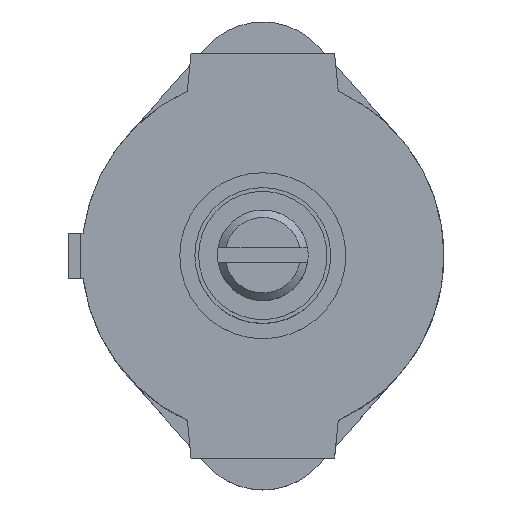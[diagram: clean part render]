
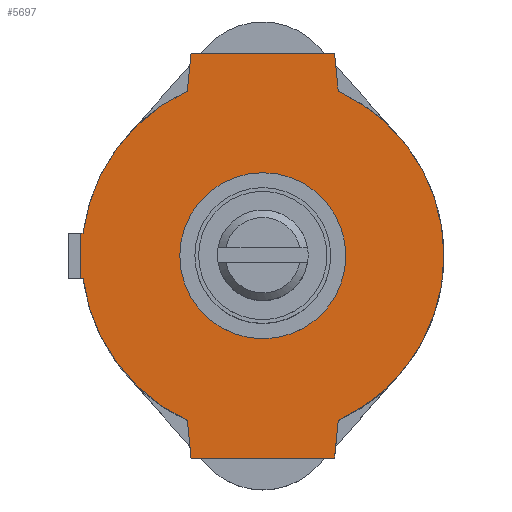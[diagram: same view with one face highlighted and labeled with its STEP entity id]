
A CAD part, top view. The second image highlights one B-rep face of the part: STEP entity #5697.
In plain terms, the highlighted planar face has unit normal (0, 0, 1).
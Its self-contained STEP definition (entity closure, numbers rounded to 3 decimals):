
#72 = AXIS2_PLACEMENT_3D ( 'NONE', #6476, #3207, #7018 ) ;
#80 = ORIENTED_EDGE ( 'NONE', *, *, #4314, .F. ) ;
#95 = VERTEX_POINT ( 'NONE', #6441 ) ;
#163 = CIRCLE ( 'NONE', #4927, 12. ) ;
#324 = EDGE_CURVE ( 'NONE', #5906, #5291, #6870, .T. ) ;
#371 = LINE ( 'NONE', #6608, #5847 ) ;
#392 = CIRCLE ( 'NONE', #6304, 12. ) ;
#504 = EDGE_CURVE ( 'NONE', #4884, #2007, #371, .T. ) ;
#529 = VERTEX_POINT ( 'NONE', #3905 ) ;
#573 = CARTESIAN_POINT ( 'NONE',  ( -12.1, 0., 14.5 ) ) ;
#690 = EDGE_CURVE ( 'NONE', #3564, #2007, #6679, .T. ) ;
#773 = VECTOR ( 'NONE', #4488, 1000. ) ;
#838 = CARTESIAN_POINT ( 'NONE',  ( 4.75, 13.4, 14.5 ) ) ;
#974 = LINE ( 'NONE', #4684, #2242 ) ;
#992 = VECTOR ( 'NONE', #3847, 1000. ) ;
#999 = EDGE_CURVE ( 'NONE', #529, #5108, #6682, .T. ) ;
#1008 = VECTOR ( 'NONE', #5718, 1000. ) ;
#1038 = VECTOR ( 'NONE', #3836, 1000. ) ;
#1258 = ORIENTED_EDGE ( 'NONE', *, *, #999, .T. ) ;
#1366 = ORIENTED_EDGE ( 'NONE', *, *, #690, .F. ) ;
#1448 = CIRCLE ( 'NONE', #4704, 5.5 ) ;
#1547 = ORIENTED_EDGE ( 'NONE', *, *, #324, .F. ) ;
#1572 = EDGE_CURVE ( 'NONE', #529, #5539, #5907, .T. ) ;
#1725 = CARTESIAN_POINT ( 'NONE',  ( 0., 0., 14.5 ) ) ;
#1785 = VERTEX_POINT ( 'NONE', #4323 ) ;
#1846 = FACE_BOUND ( 'NONE', #4128, .T. ) ;
#1949 = CARTESIAN_POINT ( 'NONE',  ( 5., -10.909, 14.5 ) ) ;
#1956 = CARTESIAN_POINT ( 'NONE',  ( 4.75, -13.4, 14.5 ) ) ;
#1993 = CARTESIAN_POINT ( 'NONE',  ( -4.75, -13.4, 14.5 ) ) ;
#2007 = VERTEX_POINT ( 'NONE', #3511 ) ;
#2072 = CARTESIAN_POINT ( 'NONE',  ( 0., 0., 14.5 ) ) ;
#2143 = VERTEX_POINT ( 'NONE', #1956 ) ;
#2219 = CARTESIAN_POINT ( 'NONE',  ( -11.906, -1.5, 14.5 ) ) ;
#2233 = DIRECTION ( 'NONE',  ( 0., 0., 1. ) ) ;
#2242 = VECTOR ( 'NONE', #6859, 1000. ) ;
#2295 = DIRECTION ( 'NONE',  ( -1., 0., 0. ) ) ;
#2302 = CARTESIAN_POINT ( 'NONE',  ( 4.75, 13.4, 14.5 ) ) ;
#2338 = DIRECTION ( 'NONE',  ( 0., 0., -1. ) ) ;
#2388 = CIRCLE ( 'NONE', #2609, 5.5 ) ;
#2461 = EDGE_CURVE ( 'NONE', #3564, #6498, #6974, .T. ) ;
#2470 = LINE ( 'NONE', #5178, #1008 ) ;
#2557 = DIRECTION ( 'NONE',  ( 1., 0., 0. ) ) ;
#2594 = DIRECTION ( 'NONE',  ( -0.1, -0.995, 0. ) ) ;
#2609 = AXIS2_PLACEMENT_3D ( 'NONE', #1725, #5582, #2295 ) ;
#2646 = DIRECTION ( 'NONE',  ( -1., 0., 0. ) ) ;
#2681 = CARTESIAN_POINT ( 'NONE',  ( -11.906, -1.5, 14.5 ) ) ;
#2783 = ORIENTED_EDGE ( 'NONE', *, *, #1572, .F. ) ;
#2785 = ORIENTED_EDGE ( 'NONE', *, *, #3080, .F. ) ;
#2807 = VERTEX_POINT ( 'NONE', #1949 ) ;
#2848 = VECTOR ( 'NONE', #3580, 1000. ) ;
#2898 = ORIENTED_EDGE ( 'NONE', *, *, #4678, .F. ) ;
#3060 = DIRECTION ( 'NONE',  ( 0., 0., -1. ) ) ;
#3080 = EDGE_CURVE ( 'NONE', #4884, #5108, #392, .T. ) ;
#3207 = DIRECTION ( 'NONE',  ( 0., 0., -1. ) ) ;
#3263 = ORIENTED_EDGE ( 'NONE', *, *, #5423, .F. ) ;
#3498 = EDGE_CURVE ( 'NONE', #5291, #6498, #6364, .T. ) ;
#3511 = CARTESIAN_POINT ( 'NONE',  ( -12.1, 1.5, 14.5 ) ) ;
#3564 = VERTEX_POINT ( 'NONE', #5957 ) ;
#3580 = DIRECTION ( 'NONE',  ( -0.1, 0.995, 0. ) ) ;
#3608 = VECTOR ( 'NONE', #2594, 1000. ) ;
#3836 = DIRECTION ( 'NONE',  ( 0., 1., 0. ) ) ;
#3847 = DIRECTION ( 'NONE',  ( 1., 0., 0. ) ) ;
#3905 = CARTESIAN_POINT ( 'NONE',  ( -4.75, 13.4, 14.5 ) ) ;
#4116 = ORIENTED_EDGE ( 'NONE', *, *, #4580, .F. ) ;
#4128 = EDGE_LOOP ( 'NONE', ( #5580, #2898 ) ) ;
#4238 = EDGE_CURVE ( 'NONE', #6998, #1785, #1448, .T. ) ;
#4286 = PLANE ( 'NONE',  #72 ) ;
#4305 = ORIENTED_EDGE ( 'NONE', *, *, #2461, .T. ) ;
#4314 = EDGE_CURVE ( 'NONE', #5539, #95, #5905, .T. ) ;
#4323 = CARTESIAN_POINT ( 'NONE',  ( 5.5, 0., 14.5 ) ) ;
#4334 = ORIENTED_EDGE ( 'NONE', *, *, #6417, .F. ) ;
#4456 = VECTOR ( 'NONE', #2557, 1000. ) ;
#4488 = DIRECTION ( 'NONE',  ( 0.1, -0.995, 0. ) ) ;
#4509 = AXIS2_PLACEMENT_3D ( 'NONE', #2072, #5912, #2646 ) ;
#4553 = ORIENTED_EDGE ( 'NONE', *, *, #3498, .F. ) ;
#4580 = EDGE_CURVE ( 'NONE', #95, #2807, #163, .T. ) ;
#4648 = CARTESIAN_POINT ( 'NONE',  ( -11.906, 1.5, 14.5 ) ) ;
#4678 = EDGE_CURVE ( 'NONE', #1785, #6998, #2388, .T. ) ;
#4684 = CARTESIAN_POINT ( 'NONE',  ( 5., -10.909, 14.5 ) ) ;
#4695 = ORIENTED_EDGE ( 'NONE', *, *, #504, .T. ) ;
#4704 = AXIS2_PLACEMENT_3D ( 'NONE', #5518, #2233, #6060 ) ;
#4733 = CARTESIAN_POINT ( 'NONE',  ( 0., 13.4, 14.5 ) ) ;
#4884 = VERTEX_POINT ( 'NONE', #4648 ) ;
#4927 = AXIS2_PLACEMENT_3D ( 'NONE', #6326, #3060, #6884 ) ;
#5070 = CARTESIAN_POINT ( 'NONE',  ( -4.75, -13.4, 14.5 ) ) ;
#5108 = VERTEX_POINT ( 'NONE', #7001 ) ;
#5122 = DIRECTION ( 'NONE',  ( -1., 0., 0. ) ) ;
#5178 = CARTESIAN_POINT ( 'NONE',  ( 0., -13.4, 14.5 ) ) ;
#5291 = VERTEX_POINT ( 'NONE', #6113 ) ;
#5320 = CARTESIAN_POINT ( 'NONE',  ( -4.75, 13.4, 14.5 ) ) ;
#5423 = EDGE_CURVE ( 'NONE', #2143, #5906, #2470, .T. ) ;
#5518 = CARTESIAN_POINT ( 'NONE',  ( 0., 0., 14.5 ) ) ;
#5539 = VERTEX_POINT ( 'NONE', #838 ) ;
#5580 = ORIENTED_EDGE ( 'NONE', *, *, #4238, .F. ) ;
#5582 = DIRECTION ( 'NONE',  ( 0., 0., 1. ) ) ;
#5614 = CARTESIAN_POINT ( 'NONE',  ( 0., 0., 14.5 ) ) ;
#5697 = ADVANCED_FACE ( 'NONE', ( #1846, #6225 ), #4286, .F. ) ;
#5718 = DIRECTION ( 'NONE',  ( -1., 0., 0. ) ) ;
#5847 = VECTOR ( 'NONE', #5122, 1000. ) ;
#5905 = LINE ( 'NONE', #2302, #773 ) ;
#5906 = VERTEX_POINT ( 'NONE', #5070 ) ;
#5907 = LINE ( 'NONE', #4733, #4456 ) ;
#5912 = DIRECTION ( 'NONE',  ( 0., 0., -1. ) ) ;
#5957 = CARTESIAN_POINT ( 'NONE',  ( -12.1, -1.5, 14.5 ) ) ;
#6060 = DIRECTION ( 'NONE',  ( -1., 0., 0. ) ) ;
#6113 = CARTESIAN_POINT ( 'NONE',  ( -5., -10.909, 14.5 ) ) ;
#6161 = DIRECTION ( 'NONE',  ( -1., 0., 0. ) ) ;
#6225 = FACE_OUTER_BOUND ( 'NONE', #6407, .T. ) ;
#6304 = AXIS2_PLACEMENT_3D ( 'NONE', #5614, #2338, #6161 ) ;
#6326 = CARTESIAN_POINT ( 'NONE',  ( 0., 0., 14.5 ) ) ;
#6364 = CIRCLE ( 'NONE', #4509, 12. ) ;
#6407 = EDGE_LOOP ( 'NONE', ( #4305, #4553, #1547, #3263, #4334, #4116, #80, #2783, #1258, #2785, #4695, #1366 ) ) ;
#6417 = EDGE_CURVE ( 'NONE', #2807, #2143, #974, .T. ) ;
#6441 = CARTESIAN_POINT ( 'NONE',  ( 5., 10.909, 14.5 ) ) ;
#6476 = CARTESIAN_POINT ( 'NONE',  ( 0., 0., 14.5 ) ) ;
#6498 = VERTEX_POINT ( 'NONE', #2681 ) ;
#6608 = CARTESIAN_POINT ( 'NONE',  ( -11.906, 1.5, 14.5 ) ) ;
#6679 = LINE ( 'NONE', #573, #1038 ) ;
#6682 = LINE ( 'NONE', #5320, #3608 ) ;
#6859 = DIRECTION ( 'NONE',  ( -0.1, -0.995, 0. ) ) ;
#6870 = LINE ( 'NONE', #1993, #2848 ) ;
#6884 = DIRECTION ( 'NONE',  ( -1., 0., 0. ) ) ;
#6917 = CARTESIAN_POINT ( 'NONE',  ( -5.5, 0., 14.5 ) ) ;
#6974 = LINE ( 'NONE', #2219, #992 ) ;
#6998 = VERTEX_POINT ( 'NONE', #6917 ) ;
#7001 = CARTESIAN_POINT ( 'NONE',  ( -5., 10.909, 14.5 ) ) ;
#7018 = DIRECTION ( 'NONE',  ( -1., 0., 0. ) ) ;
